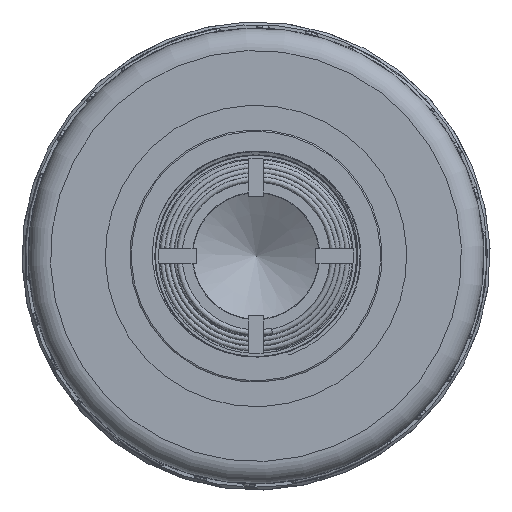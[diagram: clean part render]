
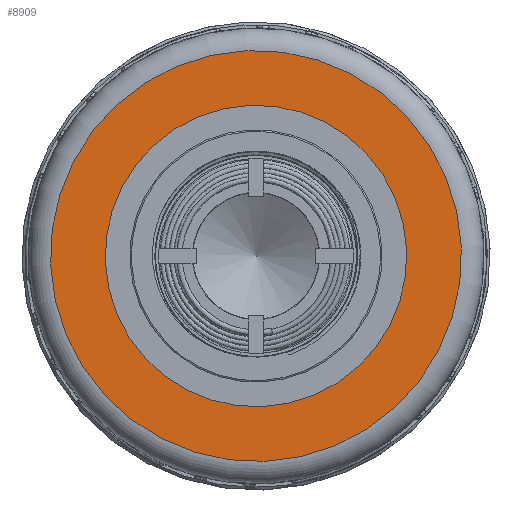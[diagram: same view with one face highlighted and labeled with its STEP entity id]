
A CAD part, front view. The second image highlights one B-rep face of the part: STEP entity #8909.
In plain terms, the highlighted planar face has unit normal (0, -1, 0).
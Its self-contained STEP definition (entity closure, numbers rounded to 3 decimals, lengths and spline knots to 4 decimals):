
#1772=FACE_BOUND('',#2702,.T.);
#2114=FACE_OUTER_BOUND('',#2701,.T.);
#2701=EDGE_LOOP('',(#6986));
#2702=EDGE_LOOP('',(#6987));
#3195=CIRCLE('',#9601,5.41);
#3225=CIRCLE('',#9635,7.375);
#3863=VERTEX_POINT('',#41596);
#3965=VERTEX_POINT('',#42992);
#4920=EDGE_CURVE('',#3863,#3863,#3195,.T.);
#5022=EDGE_CURVE('',#3965,#3965,#3225,.T.);
#6986=ORIENTED_EDGE('',*,*,#5022,.F.);
#6987=ORIENTED_EDGE('',*,*,#4920,.T.);
#8022=PLANE('',#9636);
#8909=ADVANCED_FACE('',(#2114,#1772),#8022,.T.);
#9601=AXIS2_PLACEMENT_3D('',#41597,#11199,#11200);
#9635=AXIS2_PLACEMENT_3D('',#42993,#11303,#11304);
#9636=AXIS2_PLACEMENT_3D('',#42994,#11305,#11306);
#11199=DIRECTION('center_axis',(0.,1.,0.));
#11200=DIRECTION('ref_axis',(-0.991,0.,0.13));
#11303=DIRECTION('center_axis',(0.,1.,0.));
#11304=DIRECTION('ref_axis',(-0.991,0.,0.13));
#11305=DIRECTION('center_axis',(0.,-1.,0.));
#11306=DIRECTION('ref_axis',(0.13,0.,0.991));
#41596=CARTESIAN_POINT('',(5.3639,-8.55,-0.7046));
#41597=CARTESIAN_POINT('Origin',(0.,-8.55,0.));
#42992=CARTESIAN_POINT('',(7.3122,-8.55,-0.9605));
#42993=CARTESIAN_POINT('Origin',(0.,-8.55,0.));
#42994=CARTESIAN_POINT('Origin',(7.3122,-8.55,-0.9605));
